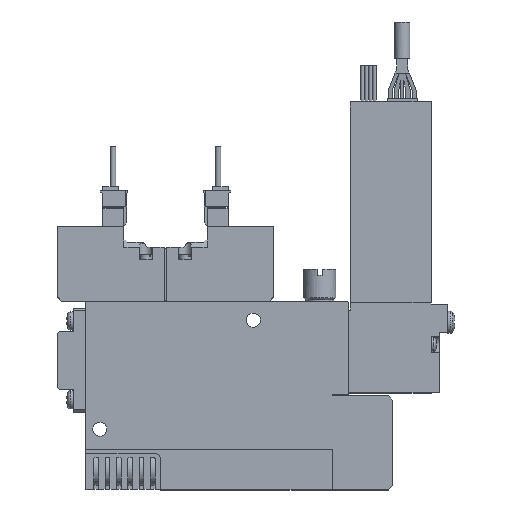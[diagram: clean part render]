
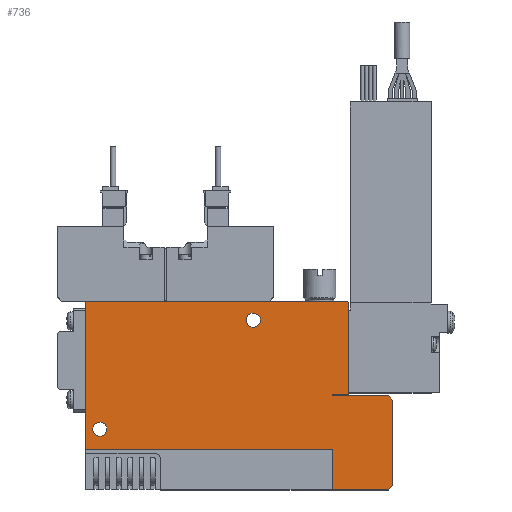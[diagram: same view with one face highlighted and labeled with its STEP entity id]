
A CAD part, top view. The second image highlights one B-rep face of the part: STEP entity #736.
In plain terms, the highlighted planar face has unit normal (0, 0, 1).
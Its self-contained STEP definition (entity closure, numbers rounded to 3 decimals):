
#736=ADVANCED_FACE('',(#1740,#1741,#1742),#1743,.F.);
#1740=FACE_OUTER_BOUND('',#2885,.T.);
#1741=FACE_BOUND('',#2886,.T.);
#1742=FACE_BOUND('',#2887,.T.);
#1743=PLANE('',#2888);
#2885=EDGE_LOOP('',(#6526,#6527,#6528,#6529,#6530,#6531,#6532,#6533,#6534,#6535,#6536,#6537,#6538,#6539));
#2886=EDGE_LOOP('',(#6540));
#2887=EDGE_LOOP('',(#6541));
#2888=AXIS2_PLACEMENT_3D('',#6542,#6543,#6544);
#6526=ORIENTED_EDGE('',*,*,#8643,.T.);
#6527=ORIENTED_EDGE('',*,*,#8665,.F.);
#6528=ORIENTED_EDGE('',*,*,#8623,.F.);
#6529=ORIENTED_EDGE('',*,*,#8511,.T.);
#6530=ORIENTED_EDGE('',*,*,#8600,.T.);
#6531=ORIENTED_EDGE('',*,*,#8540,.T.);
#6532=ORIENTED_EDGE('',*,*,#8666,.T.);
#6533=ORIENTED_EDGE('',*,*,#8667,.T.);
#6534=ORIENTED_EDGE('',*,*,#8668,.T.);
#6535=ORIENTED_EDGE('',*,*,#8669,.T.);
#6536=ORIENTED_EDGE('',*,*,#8670,.T.);
#6537=ORIENTED_EDGE('',*,*,#8671,.T.);
#6538=ORIENTED_EDGE('',*,*,#8672,.T.);
#6539=ORIENTED_EDGE('',*,*,#8673,.T.);
#6540=ORIENTED_EDGE('',*,*,#8674,.F.);
#6541=ORIENTED_EDGE('',*,*,#8598,.F.);
#6542=CARTESIAN_POINT('',(0.0,0.0,5.0));
#6543=DIRECTION('',(0.0,0.0,-1.0));
#6544=DIRECTION('',(0.0,-1.0,0.0));
#8511=EDGE_CURVE('',#10608,#10612,#10614,.T.);
#8540=EDGE_CURVE('',#10664,#10662,#10665,.T.);
#8598=EDGE_CURVE('',#10767,#10767,#10768,.T.);
#8600=EDGE_CURVE('',#10612,#10664,#10770,.T.);
#8623=EDGE_CURVE('',#10608,#10811,#10812,.T.);
#8643=EDGE_CURVE('',#10843,#10841,#10844,.T.);
#8665=EDGE_CURVE('',#10811,#10841,#10873,.T.);
#8666=EDGE_CURVE('',#10662,#10874,#10875,.T.);
#8667=EDGE_CURVE('',#10874,#10876,#10877,.T.);
#8668=EDGE_CURVE('',#10876,#10878,#10879,.T.);
#8669=EDGE_CURVE('',#10878,#10880,#10881,.T.);
#8670=EDGE_CURVE('',#10880,#10882,#10883,.T.);
#8671=EDGE_CURVE('',#10882,#10884,#10885,.T.);
#8672=EDGE_CURVE('',#10884,#10886,#10887,.T.);
#8673=EDGE_CURVE('',#10886,#10843,#10888,.T.);
#8674=EDGE_CURVE('',#10889,#10889,#10890,.T.);
#10608=VERTEX_POINT('',#14005);
#10612=VERTEX_POINT('',#14011);
#10614=LINE('',#14014,#14015);
#10662=VERTEX_POINT('',#14135);
#10664=VERTEX_POINT('',#14138);
#10665=LINE('',#14139,#14140);
#10767=VERTEX_POINT('',#14345);
#10768=CIRCLE('',#14346,1.75);
#10770=LINE('',#14349,#14350);
#10811=VERTEX_POINT('',#14413);
#10812=LINE('',#14414,#14415);
#10841=VERTEX_POINT('',#14459);
#10843=VERTEX_POINT('',#14462);
#10844=LINE('',#14463,#14464);
#10873=LINE('',#14511,#14512);
#10874=VERTEX_POINT('',#14513);
#10875=LINE('',#14514,#14515);
#10876=VERTEX_POINT('',#14516);
#10877=LINE('',#14517,#14518);
#10878=VERTEX_POINT('',#14519);
#10879=LINE('',#14520,#14521);
#10880=VERTEX_POINT('',#14522);
#10881=LINE('',#14523,#14524);
#10882=VERTEX_POINT('',#14525);
#10883=LINE('',#14526,#14527);
#10884=VERTEX_POINT('',#14528);
#10885=LINE('',#14529,#14530);
#10886=VERTEX_POINT('',#14531);
#10887=LINE('',#14532,#14533);
#10888=LINE('',#14534,#14535);
#10889=VERTEX_POINT('',#14536);
#10890=CIRCLE('',#14537,1.75);
#14005=CARTESIAN_POINT('',(61.1,0.0,5.0));
#14011=CARTESIAN_POINT('',(75.0,0.0,5.0));
#14014=CARTESIAN_POINT('',(0.0,0.0,5.0));
#14015=VECTOR('',#16442,1.0);
#14135=CARTESIAN_POINT('',(76.0,22.25,5.0));
#14138=CARTESIAN_POINT('',(76.0,1.0,5.0));
#14139=CARTESIAN_POINT('',(76.0,1.0,5.0));
#14140=VECTOR('',#16477,1.0);
#14345=CARTESIAN_POINT('',(43.25,42.0,5.0));
#14346=AXIS2_PLACEMENT_3D('',#16571,#16572,#16573);
#14349=CARTESIAN_POINT('',(75.0,0.0,5.0));
#14350=VECTOR('',#16575,1.0);
#14413=CARTESIAN_POINT('',(61.1,10.1,5.0));
#14414=CARTESIAN_POINT('',(61.1,0.0,5.0));
#14415=VECTOR('',#16598,1.0);
#14459=CARTESIAN_POINT('',(0.0,10.1,5.0));
#14462=CARTESIAN_POINT('',(0.0,46.4,5.0));
#14463=CARTESIAN_POINT('',(0.0,46.4,5.0));
#14464=VECTOR('',#16624,1.0);
#14511=CARTESIAN_POINT('',(61.1,10.1,5.0));
#14512=VECTOR('',#16652,1.0);
#14513=CARTESIAN_POINT('',(75.0,23.25,5.0));
#14514=CARTESIAN_POINT('',(76.0,22.25,5.0));
#14515=VECTOR('',#16653,1.0);
#14516=CARTESIAN_POINT('',(61.0,23.25,5.0));
#14517=CARTESIAN_POINT('',(75.0,23.25,5.0));
#14518=VECTOR('',#16654,1.0);
#14519=CARTESIAN_POINT('',(61.0,23.5,5.0));
#14520=CARTESIAN_POINT('',(61.0,23.25,5.0));
#14521=VECTOR('',#16655,1.0);
#14522=CARTESIAN_POINT('',(65.0,23.5,5.0));
#14523=CARTESIAN_POINT('',(61.0,23.5,5.0));
#14524=VECTOR('',#16656,1.0);
#14525=CARTESIAN_POINT('',(65.0,46.4,5.0));
#14526=CARTESIAN_POINT('',(65.0,23.5,5.0));
#14527=VECTOR('',#16657,1.0);
#14528=CARTESIAN_POINT('',(64.8,46.6,5.0));
#14529=CARTESIAN_POINT('',(65.0,46.4,5.0));
#14530=VECTOR('',#16658,1.0);
#14531=CARTESIAN_POINT('',(0.2,46.6,5.0));
#14532=CARTESIAN_POINT('',(64.8,46.6,5.0));
#14533=VECTOR('',#16659,1.0);
#14534=CARTESIAN_POINT('',(0.2,46.6,5.0));
#14535=VECTOR('',#16660,1.0);
#14536=CARTESIAN_POINT('',(5.25,15.0,5.0));
#14537=AXIS2_PLACEMENT_3D('',#16661,#16662,#16663);
#16442=DIRECTION('',(1.0,0.0,0.0));
#16477=DIRECTION('',(0.0,1.0,0.0));
#16571=CARTESIAN_POINT('',(41.5,42.0,5.0));
#16572=DIRECTION('',(0.0,0.0,1.0));
#16573=DIRECTION('',(1.0,0.0,0.0));
#16575=DIRECTION('',(0.707,0.707,0.0));
#16598=DIRECTION('',(0.0,1.0,0.0));
#16624=DIRECTION('',(0.0,-1.0,0.0));
#16652=DIRECTION('',(-1.0,0.0,0.0));
#16653=DIRECTION('',(-0.707,0.707,0.0));
#16654=DIRECTION('',(-1.0,0.0,0.0));
#16655=DIRECTION('',(0.0,1.0,0.0));
#16656=DIRECTION('',(1.0,0.,0.0));
#16657=DIRECTION('',(0.0,1.0,0.0));
#16658=DIRECTION('',(-0.707,0.707,0.0));
#16659=DIRECTION('',(-1.0,0.0,0.0));
#16660=DIRECTION('',(-0.707,-0.707,0.0));
#16661=CARTESIAN_POINT('',(3.5,15.0,5.0));
#16662=DIRECTION('',(0.0,0.0,1.0));
#16663=DIRECTION('',(1.0,0.0,0.0));
